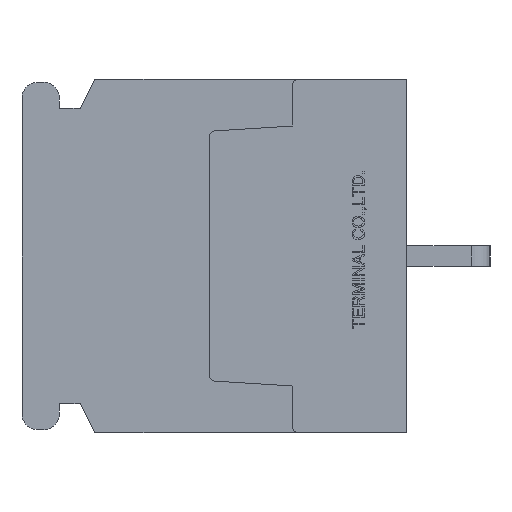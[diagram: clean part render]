
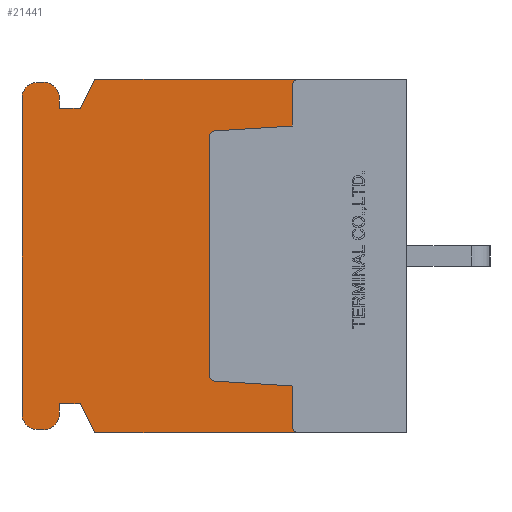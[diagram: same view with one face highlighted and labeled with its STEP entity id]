
A CAD part, left-side view. The second image highlights one B-rep face of the part: STEP entity #21441.
In plain terms, the highlighted planar face has unit normal (-1, 0, 0).
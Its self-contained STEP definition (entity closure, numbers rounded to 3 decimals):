
#1311=VECTOR('',#24268,1.);
#1317=VECTOR('',#24283,1.);
#1319=VECTOR('',#24286,1.);
#1322=VECTOR('',#24294,1.);
#1325=VECTOR('',#24302,1.);
#1993=VECTOR('',#26035,1.);
#2042=VECTOR('',#26086,1.);
#2504=VECTOR('',#27383,1.);
#2505=VECTOR('',#27384,1.);
#2506=VECTOR('',#27385,1.);
#2507=VECTOR('',#27388,1.);
#2508=VECTOR('',#27391,1.);
#2509=VECTOR('',#27394,1.);
#2510=VECTOR('',#27397,1.);
#2511=VECTOR('',#27398,1.);
#2512=VECTOR('',#27399,1.);
#3567=LINE('',#30180,#1311);
#3573=LINE('',#30196,#1317);
#3575=LINE('',#30200,#1319);
#3578=LINE('',#30208,#1322);
#3581=LINE('',#30216,#1325);
#4249=LINE('',#32443,#1993);
#4298=LINE('',#32536,#2042);
#4760=LINE('',#34138,#2504);
#4761=LINE('',#34140,#2505);
#4762=LINE('',#34142,#2506);
#4763=LINE('',#34146,#2507);
#4764=LINE('',#34150,#2508);
#4765=LINE('',#34154,#2509);
#4766=LINE('',#34158,#2510);
#4767=LINE('',#34160,#2511);
#4768=LINE('',#34162,#2512);
#5776=VERTEX_POINT('',#30181);
#5777=VERTEX_POINT('',#30182);
#5778=VERTEX_POINT('',#30187);
#5779=VERTEX_POINT('',#30191);
#5780=VERTEX_POINT('',#30192);
#5781=VERTEX_POINT('',#30197);
#5782=VERTEX_POINT('',#30201);
#5783=VERTEX_POINT('',#30205);
#5784=VERTEX_POINT('',#30209);
#5785=VERTEX_POINT('',#30213);
#6485=VERTEX_POINT('',#32444);
#6526=VERTEX_POINT('',#32535);
#6982=VERTEX_POINT('',#34139);
#6983=VERTEX_POINT('',#34141);
#6984=VERTEX_POINT('',#34143);
#6985=VERTEX_POINT('',#34145);
#6986=VERTEX_POINT('',#34147);
#6987=VERTEX_POINT('',#34149);
#6988=VERTEX_POINT('',#34151);
#6989=VERTEX_POINT('',#34153);
#6990=VERTEX_POINT('',#34155);
#6991=VERTEX_POINT('',#34157);
#6992=VERTEX_POINT('',#34159);
#6993=VERTEX_POINT('',#34161);
#7565=CIRCLE('',#22009,0.3);
#7566=CIRCLE('',#22011,0.3);
#7567=CIRCLE('',#22015,0.3);
#7568=CIRCLE('',#22018,0.3);
#8005=CIRCLE('',#23207,0.75);
#8006=CIRCLE('',#23208,0.75);
#8007=CIRCLE('',#23209,0.75);
#8008=CIRCLE('',#23210,0.75);
#8706=EDGE_CURVE('',#5776,#5777,#3567,.T.);
#8709=EDGE_CURVE('',#5778,#5776,#7565,.T.);
#8711=EDGE_CURVE('',#5779,#5780,#7566,.T.);
#8714=EDGE_CURVE('',#5781,#5779,#3573,.T.);
#8716=EDGE_CURVE('',#5782,#5781,#3575,.T.);
#8718=EDGE_CURVE('',#5783,#5782,#7567,.T.);
#8720=EDGE_CURVE('',#5784,#5783,#3578,.T.);
#8722=EDGE_CURVE('',#5785,#5784,#7568,.T.);
#8724=EDGE_CURVE('',#5777,#5785,#3581,.T.);
#9735=EDGE_CURVE('',#5778,#6485,#4249,.T.);
#9784=EDGE_CURVE('',#6526,#5780,#4298,.T.);
#10501=EDGE_CURVE('',#6982,#6526,#4760,.T.);
#10502=EDGE_CURVE('',#6983,#6982,#4761,.T.);
#10503=EDGE_CURVE('',#6984,#6983,#4762,.T.);
#10504=EDGE_CURVE('',#6985,#6984,#8005,.T.);
#10505=EDGE_CURVE('',#6986,#6985,#4763,.T.);
#10506=EDGE_CURVE('',#6987,#6986,#8006,.T.);
#10507=EDGE_CURVE('',#6988,#6987,#4764,.T.);
#10508=EDGE_CURVE('',#6989,#6988,#8007,.T.);
#10509=EDGE_CURVE('',#6990,#6989,#4765,.T.);
#10510=EDGE_CURVE('',#6991,#6990,#8008,.T.);
#10511=EDGE_CURVE('',#6992,#6991,#4766,.T.);
#10512=EDGE_CURVE('',#6993,#6992,#4767,.T.);
#10513=EDGE_CURVE('',#6485,#6993,#4768,.T.);
#16097=ORIENTED_EDGE('',*,*,#8711,.T.);
#16098=ORIENTED_EDGE('',*,*,#9784,.F.);
#16099=ORIENTED_EDGE('',*,*,#10501,.F.);
#16100=ORIENTED_EDGE('',*,*,#10502,.F.);
#16101=ORIENTED_EDGE('',*,*,#10503,.F.);
#16102=ORIENTED_EDGE('',*,*,#10504,.F.);
#16103=ORIENTED_EDGE('',*,*,#10505,.F.);
#16104=ORIENTED_EDGE('',*,*,#10506,.F.);
#16105=ORIENTED_EDGE('',*,*,#10507,.F.);
#16106=ORIENTED_EDGE('',*,*,#10508,.F.);
#16107=ORIENTED_EDGE('',*,*,#10509,.F.);
#16108=ORIENTED_EDGE('',*,*,#10510,.F.);
#16109=ORIENTED_EDGE('',*,*,#10511,.F.);
#16110=ORIENTED_EDGE('',*,*,#10512,.F.);
#16111=ORIENTED_EDGE('',*,*,#10513,.F.);
#16112=ORIENTED_EDGE('',*,*,#9735,.F.);
#16113=ORIENTED_EDGE('',*,*,#8709,.T.);
#16114=ORIENTED_EDGE('',*,*,#8706,.T.);
#16115=ORIENTED_EDGE('',*,*,#8724,.T.);
#16116=ORIENTED_EDGE('',*,*,#8722,.T.);
#16117=ORIENTED_EDGE('',*,*,#8720,.T.);
#16118=ORIENTED_EDGE('',*,*,#8718,.T.);
#16119=ORIENTED_EDGE('',*,*,#8716,.T.);
#16120=ORIENTED_EDGE('',*,*,#8714,.T.);
#18782=EDGE_LOOP('',(#16097,#16098,#16099,#16100,#16101,#16102,#16103,#16104,
#16105,#16106,#16107,#16108,#16109,#16110,#16111,#16112,#16113,#16114,#16115,
#16116,#16117,#16118,#16119,#16120));
#20166=FACE_BOUND('',#18782,.T.);
#21441=ADVANCED_FACE('',(#20166),#36839,.F.);
#22009=AXIS2_PLACEMENT_3D('',#30186,#24273,#24274);
#22011=AXIS2_PLACEMENT_3D('',#30190,#24278,#24279);
#22015=AXIS2_PLACEMENT_3D('',#30204,#24290,#24291);
#22018=AXIS2_PLACEMENT_3D('',#30212,#24298,#24299);
#23206=AXIS2_PLACEMENT_3D('',#34137,#27382,$);
#23207=AXIS2_PLACEMENT_3D('',#34144,#27386,#27387);
#23208=AXIS2_PLACEMENT_3D('',#34148,#27389,#27390);
#23209=AXIS2_PLACEMENT_3D('',#34152,#27392,#27393);
#23210=AXIS2_PLACEMENT_3D('',#34156,#27395,#27396);
#24268=DIRECTION('',(0.,0.,1.));
#24273=DIRECTION('',(1.,0.,0.));
#24274=DIRECTION('',(0.,0.,-0.3));
#24278=DIRECTION('',(1.,0.,0.));
#24279=DIRECTION('',(0.,0.,-0.3));
#24283=DIRECTION('',(0.,0.,1.));
#24286=DIRECTION('',(0.,-0.998,0.062));
#24290=DIRECTION('',(1.,0.,0.));
#24291=DIRECTION('',(0.,0.,-0.3));
#24294=DIRECTION('',(0.,0.,1.));
#24298=DIRECTION('',(1.,0.,0.));
#24299=DIRECTION('',(0.,0.,-0.3));
#24302=DIRECTION('',(0.,0.998,0.062));
#26035=DIRECTION('',(0.,1.,0.));
#26086=DIRECTION('',(0.,-1.,0.));
#27382=DIRECTION('',(1.,0.,0.));
#27383=DIRECTION('',(0.,-0.447,0.894));
#27384=DIRECTION('',(0.,-1.,0.));
#27385=DIRECTION('',(0.,0.,-1.));
#27386=DIRECTION('',(1.,0.,0.));
#27387=DIRECTION('',(0.,0.,-0.75));
#27388=DIRECTION('',(0.,-1.,0.));
#27389=DIRECTION('',(1.,0.,0.));
#27390=DIRECTION('',(0.,0.,-0.75));
#27391=DIRECTION('',(0.,0.,1.));
#27392=DIRECTION('',(1.,0.,0.));
#27393=DIRECTION('',(0.,0.,-0.75));
#27394=DIRECTION('',(0.,1.,0.));
#27395=DIRECTION('',(1.,0.,0.));
#27396=DIRECTION('',(0.,0.,-0.75));
#27397=DIRECTION('',(0.,0.,-1.));
#27398=DIRECTION('',(0.,1.,0.));
#27399=DIRECTION('',(0.,0.447,0.894));
#30180=CARTESIAN_POINT('',(0.,5.5,-3.613));
#30181=CARTESIAN_POINT('',(0.,5.5,-8.2));
#30182=CARTESIAN_POINT('',(0.,5.5,-6.25));
#30186=CARTESIAN_POINT('',(0.,5.2,-8.2));
#30187=CARTESIAN_POINT('',(0.,5.2,-8.5));
#30190=CARTESIAN_POINT('',(0.,5.2,8.2));
#30191=CARTESIAN_POINT('',(0.,5.5,8.2));
#30192=CARTESIAN_POINT('',(0.,5.2,8.5));
#30196=CARTESIAN_POINT('',(0.,5.5,3.612));
#30197=CARTESIAN_POINT('',(0.,5.5,6.25));
#30200=CARTESIAN_POINT('',(0.,8.598,6.056));
#30201=CARTESIAN_POINT('',(0.,9.219,6.018));
#30204=CARTESIAN_POINT('',(0.,9.2,5.718));
#30205=CARTESIAN_POINT('',(0.,9.5,5.718));
#30208=CARTESIAN_POINT('',(0.,9.5,0.));
#30209=CARTESIAN_POINT('',(0.,9.5,-5.718));
#30212=CARTESIAN_POINT('',(0.,9.2,-5.718));
#30213=CARTESIAN_POINT('',(0.,9.219,-6.018));
#30216=CARTESIAN_POINT('',(0.,8.598,-6.056));
#32443=CARTESIAN_POINT('',(0.,0.,-8.5));
#32444=CARTESIAN_POINT('',(0.,15.,-8.5));
#32535=CARTESIAN_POINT('',(0.,15.,8.5));
#32536=CARTESIAN_POINT('',(0.,15.,8.5));
#34137=CARTESIAN_POINT('',(0.,9.463,0.));
#34138=CARTESIAN_POINT('',(0.,15.7,7.1));
#34139=CARTESIAN_POINT('',(0.,15.7,7.1));
#34140=CARTESIAN_POINT('',(0.,16.7,7.1));
#34141=CARTESIAN_POINT('',(0.,16.7,7.1));
#34142=CARTESIAN_POINT('',(0.,16.7,7.6));
#34143=CARTESIAN_POINT('',(0.,16.7,7.6));
#34144=CARTESIAN_POINT('',(0.,17.45,7.6));
#34145=CARTESIAN_POINT('',(0.,17.45,8.35));
#34146=CARTESIAN_POINT('',(0.,17.75,8.35));
#34147=CARTESIAN_POINT('',(0.,17.75,8.35));
#34148=CARTESIAN_POINT('',(0.,17.75,7.6));
#34149=CARTESIAN_POINT('',(0.,18.5,7.6));
#34150=CARTESIAN_POINT('',(0.,18.5,-7.6));
#34151=CARTESIAN_POINT('',(0.,18.5,-7.6));
#34152=CARTESIAN_POINT('',(0.,17.75,-7.6));
#34153=CARTESIAN_POINT('',(0.,17.75,-8.35));
#34154=CARTESIAN_POINT('',(0.,17.45,-8.35));
#34155=CARTESIAN_POINT('',(0.,17.45,-8.35));
#34156=CARTESIAN_POINT('',(0.,17.45,-7.6));
#34157=CARTESIAN_POINT('',(0.,16.7,-7.6));
#34158=CARTESIAN_POINT('',(0.,16.7,-7.1));
#34159=CARTESIAN_POINT('',(0.,16.7,-7.1));
#34160=CARTESIAN_POINT('',(0.,15.7,-7.1));
#34161=CARTESIAN_POINT('',(0.,15.7,-7.1));
#34162=CARTESIAN_POINT('',(0.,15.,-8.5));
#36839=PLANE('',#23206);
